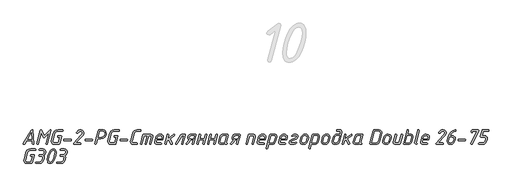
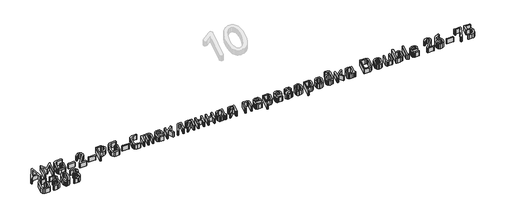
# One storey, part 9 of 22: 1 proxy.
"""IFC4 building model written with IfcOpenShell, lengths in millimetres."""

from ifc_helpers import new_model, si_unit, origin, origin_with_axes, place, context, project, spatial, polyline, outline, extrude, element, save

model = new_model("IFC4")

# Units and contexts
model_context = context("Model", 3, world=origin())
ifc_project = project(units=[si_unit("LENGTHUNIT", "METRE", prefix="MILLI")], contexts=[model_context])

# Site, building, storey
site = spatial("IfcSite", under=ifc_project)
building = spatial("IfcBuilding", under=site)
storey = spatial("IfcBuildingStorey", under=building, Name="Уровень 1", Elevation=0.0)

# Proxy
placement = place(None, origin())
element("IfcBuildingElementProxy", 1, Name="30", ObjectType="30", at=placement, inside=storey, context=model_context, shape_type="SweptSolid", body=[
    extrude(outline(polyline([(-27254.4219264, -51295.2113625), (-27310.5539274, -51295.2113625), (-27331.3287604, -51329.8494015), (-27337.7210168, -51333.5649005), (-27343.0345798, -51331.3276108), (-27345.1919664, -51326.0140477), (-27344.0733215, -51322.0188875), (-27261.4534084, -51186.2633437), (-27254.9812489, -51182.7076511), (-27249.6277342, -51184.4455458), (-27247.4703477, -51189.6592298), (-27237.0429795, -51326.2537573), (-27238.9406806, -51331.7371147), (-27244.6337839, -51333.5649005), (-27249.9573349, -51331.7970421), (-27252.0248303, -51326.493467), (-27254.4219264, -51295.2113625)]), holes=[polyline([(-27255.5405713, -51279.8699473), (-27260.6543764, -51213.3904815), (-27301.3251073, -51279.8699473), (-27255.5405713, -51279.8699473)])]), origin_with_axes(), (0.0, 0.0, 1.0), 50.0),
    extrude(outline(polyline([(-27159.3371135, -51213.3505299), (-27189.9000891, -51327.9716762), (-27192.4370158, -51332.1665945), (-27197.0913775, -51333.5649005), (-27202.3649889, -51331.3276108), (-27204.6821818, -51326.2537573), (-27204.362569, -51323.976516), (-27168.0865143, -51188.3008754), (-27165.5595755, -51184.1059572), (-27160.9351776, -51182.7076511), (-27153.9036956, -51187.2621337), (-27129.8128796, -51244.5527311), (-27073.0816046, -51185.1047472), (-27067.7680415, -51182.7076511), (-27062.1348656, -51184.5654006), (-27060.2571403, -51190.1386491), (-27060.49685, -51192.2960356), (-27096.732953, -51327.9716762), (-27099.3198193, -51332.1665945), (-27103.8842898, -51333.5649005), (-27109.1778771, -51331.3276108), (-27111.5150458, -51326.2537573), (-27111.1554814, -51323.976516), (-27082.5101827, -51216.6665129), (-27127.0961706, -51263.1701777), (-27132.4097337, -51265.4074674), (-27139.2414576, -51260.8929364), (-27159.3371135, -51213.3505299)])), origin_with_axes(), (0.0, 0.0, 1.0), 50.0),
    extrude(outline(polyline([(-26942.6795754, -51198.0490663), (-26991.3406268, -51198.0490663), (-27004.0052846, -51200.8356905), (-27014.512556, -51209.1955633), (-27020.5452479, -51220.5817699), (-27040.7607585, -51295.6907818), (-27041.5597906, -51301.2840061), (-27036.3860581, -51313.5491479), (-27023.5016664, -51318.2234853), (-26984.6287576, -51318.2234853), (-26968.4883104, -51259.4147271), (-26982.2316615, -51259.4147271), (-26987.8648374, -51257.4970502), (-26989.7425627, -51251.7440195), (-26987.8648374, -51245.9909888), (-26982.2316615, -51244.0733119), (-26956.782491, -51244.0733119), (-26952.3478631, -51245.4316663), (-26950.8696539, -51249.5067298), (-26950.9895087, -51251.5442615), (-26971.1251161, -51326.0939509), (-26974.6108934, -51331.6971631), (-26980.9931618, -51333.5649005), (-27027.5767298, -51333.5649005), (-27041.7995002, -51329.4199218), (-27052.8261424, -51316.9849857), (-27057.0210606, -51302.1229897), (-27056.2220285, -51295.8505882), (-27036.1263727, -51220.4219634), (-27026.1784238, -51199.6471304), (-27009.5186057, -51186.9425209), (-26987.2256117, -51182.7076511), (-26942.6795754, -51182.7076511), (-26937.0763632, -51184.625328), (-26935.2086258, -51190.3783587), (-26937.0763632, -51196.1313894), (-26942.6795754, -51198.0490663)])), origin_with_axes(), (0.0, 0.0, 1.0), 50.0),
    extrude(outline(polyline([(-26858.9809691, -51295.2113625), (-26921.0657587, -51295.2113625), (-26926.6689709, -51293.2936856), (-26928.5367083, -51287.5406549), (-26926.6689709, -51281.7876242), (-26921.0657587, -51279.8699473), (-26858.9809691, -51279.8699473), (-26853.3777569, -51281.7876242), (-26851.5100195, -51287.5406549), (-26853.3777569, -51293.2936856), (-26858.9809691, -51295.2113625)])), origin_with_axes(), (0.0, 0.0, 1.0), 50.0),
    extrude(outline(polyline([(-26784.9106988, -51217.8251093), (-26790.4639715, -51220.5418183), (-26795.7575588, -51218.2645769), (-26797.9748727, -51213.0309171), (-26796.137099, -51208.1568216), (-26776.8404752, -51189.5793266), (-26764.8749704, -51184.42557), (-26751.2714499, -51182.7076511), (-26736.3295507, -51186.3532348), (-26725.4627149, -51197.2899858), (-26721.2677967, -51212.4715946), (-26724.6936466, -51227.7430945), (-26734.9711962, -51242.7149574), (-26803.5281454, -51318.2234853), (-26758.5426415, -51318.2234853), (-26752.9094656, -51320.1411622), (-26751.0317403, -51325.8941929), (-26752.9094656, -51331.6472236), (-26758.5426415, -51333.5649005), (-26820.5874795, -51333.5649005), (-26826.1906917, -51331.6871752), (-26828.0584291, -51326.0539993), (-26826.1407522, -51320.9002427), (-26745.7980804, -51232.4873473), (-26738.906429, -51222.5693621), (-26736.6092119, -51213.1108203), (-26741.2935373, -51201.8145048), (-26755.3465133, -51198.0490663), (-26764.8050551, -51200.6359325), (-26775.9215884, -51208.3965312), (-26784.9106988, -51217.8251093)])), origin_with_axes(), (0.0, 0.0, 1.0), 50.0),
    extrude(outline(polyline([(-26639.0873512, -51295.2113625), (-26701.1721409, -51295.2113625), (-26706.7753531, -51293.2936856), (-26708.6430905, -51287.5406549), (-26706.7753531, -51281.7876242), (-26701.1721409, -51279.8699473), (-26639.0873512, -51279.8699473), (-26633.4841391, -51281.7876242), (-26631.6164017, -51287.5406549), (-26633.4841391, -51293.2936856), (-26639.0873512, -51295.2113625)])), origin_with_axes(), (0.0, 0.0, 1.0), 50.0),
    extrude(outline(polyline([(-26548.4771177, -51274.7561423), (-26579.5195126, -51274.7561423), (-26594.1417989, -51328.091531), (-26596.738653, -51332.1965582), (-26601.3330873, -51333.5649005), (-26606.6066988, -51331.3276108), (-26608.9238917, -51326.2537573), (-26608.6042789, -51323.976516), (-26572.9274982, -51190.2585039), (-26569.4716846, -51184.5953643), (-26563.0195009, -51182.7076511), (-26524.1465921, -51182.7076511), (-26507.0173427, -51187.731565), (-26493.8233261, -51202.8033069), (-26488.8293758, -51221.1810439), (-26489.7083111, -51228.7318967), (-26501.7437312, -51253.3620594), (-26522.1090604, -51269.162918), (-26548.4771177, -51274.7561423)]), holes=[polyline([(-26544.4020543, -51259.4147271), (-26527.9519822, -51255.5194459), (-26513.5993691, -51243.8336023), (-26506.6178267, -51232.7769964), (-26504.2906458, -51221.1810439), (-26507.2370765, -51209.3653576), (-26516.0763685, -51201.085388), (-26528.3814619, -51198.0490663), (-26559.3839051, -51198.0490663), (-26575.5243523, -51259.4147271), (-26544.4020543, -51259.4147271)])]), origin_with_axes(), (0.0, 0.0, 1.0), 50.0),
    extrude(outline(polyline([(-26362.2627005, -51198.0490663), (-26410.9237518, -51198.0490663), (-26423.5884096, -51200.8356905), (-26434.095681, -51209.1955633), (-26440.1283729, -51220.5817699), (-26460.3438836, -51295.6907818), (-26461.1429156, -51301.2840061), (-26455.9691831, -51313.5491479), (-26443.0847915, -51318.2234853), (-26404.2118826, -51318.2234853), (-26388.0714354, -51259.4147271), (-26401.8147865, -51259.4147271), (-26407.4479624, -51257.4970502), (-26409.3256877, -51251.7440195), (-26407.4479624, -51245.9909888), (-26401.8147865, -51244.0733119), (-26376.365616, -51244.0733119), (-26371.9309882, -51245.4316663), (-26370.4527789, -51249.5067298), (-26370.5726337, -51251.5442615), (-26390.7082411, -51326.0939509), (-26394.1940184, -51331.6971631), (-26400.5762868, -51333.5649005), (-26447.1598549, -51333.5649005), (-26461.3826252, -51329.4199218), (-26472.4092674, -51316.9849857), (-26476.6041856, -51302.1229897), (-26475.8051536, -51295.8505882), (-26455.7094977, -51220.4219634), (-26445.7615488, -51199.6471304), (-26429.1017307, -51186.9425209), (-26406.8087368, -51182.7076511), (-26362.2627005, -51182.7076511), (-26356.6594883, -51184.625328), (-26354.7917509, -51190.3783587), (-26356.6594883, -51196.1313894), (-26362.2627005, -51198.0490663)])), origin_with_axes(), (0.0, 0.0, 1.0), 50.0),
    extrude(outline(polyline([(-26278.5640941, -51295.2113625), (-26340.6488837, -51295.2113625), (-26346.2520959, -51293.2936856), (-26348.1198333, -51287.5406549), (-26346.2520959, -51281.7876242), (-26340.6488837, -51279.8699473), (-26278.5640941, -51279.8699473), (-26272.9608819, -51281.7876242), (-26271.0931445, -51287.5406549), (-26272.9608819, -51293.2936856), (-26278.5640941, -51295.2113625)])), origin_with_axes(), (0.0, 0.0, 1.0), 50.0),
    extrude(outline(polyline([(-26114.0433968, -51234.4050242), (-26111.4864942, -51230.1501786), (-26106.7722052, -51228.7318967), (-26034.8193698, -51228.7318967), (-26022.5941796, -51231.7382547), (-26014.12444, -51240.7573289), (-26011.0881182, -51252.6629063), (-26011.8871502, -51258.6955982), (-26030.5045968, -51328.0116278), (-26033.091463, -51332.1765824), (-26037.6559336, -51333.5649005), (-26042.9495209, -51331.3675624), (-26045.2866896, -51326.3336606), (-26044.9271252, -51324.0564192), (-26027.4283234, -51258.9752595), (-26026.6292914, -51253.4619384), (-26029.6756011, -51246.4204685), (-26038.81453, -51244.0733119), (-26054.3557032, -51244.0733119), (-26077.0881648, -51328.0116278), (-26079.6750311, -51332.1765824), (-26084.2395016, -51333.5649005), (-26089.5330889, -51331.3675624), (-26091.8702576, -51326.3336606), (-26091.5506448, -51324.0564192), (-26069.8169733, -51244.0733119), (-26100.9792229, -51244.0733119), (-26123.6717329, -51328.0116278), (-26126.268587, -51332.1765824), (-26130.8630212, -51333.5649005), (-26136.1366327, -51331.3475866), (-26138.4538256, -51326.293709), (-26138.1342128, -51324.0164676), (-26114.0433968, -51234.4050242)])), origin_with_axes(), (0.0, 0.0, 1.0), 50.0),
    extrude(outline(polyline([(-26178.7649921, -51318.2234853), (-26173.1318162, -51320.1411622), (-26171.2540909, -51325.8941929), (-26173.1318162, -51331.6472236), (-26178.7649921, -51333.5649005), (-26211.804967, -51333.5649005), (-26226.1575801, -51329.3899581), (-26237.1742344, -51316.8651309), (-26241.2492978, -51301.9232317), (-26240.4502657, -51295.8505882), (-26220.4744647, -51220.4219634), (-26213.6527286, -51203.9219518), (-26203.2153726, -51192.1362292), (-26189.1623966, -51185.0647956), (-26171.4938005, -51182.7076511), (-26142.6087922, -51182.7076511), (-26136.9756163, -51184.625328), (-26135.097891, -51190.3783587), (-26136.9756163, -51196.1313894), (-26142.6087922, -51198.0490663), (-26175.568864, -51198.0490663), (-26188.113667, -51200.8356905), (-26198.7407932, -51209.1955633), (-26204.8933399, -51220.5817699), (-26224.9889957, -51295.6907818), (-26225.7880278, -51301.2840061), (-26220.6142953, -51313.5491479), (-26207.7299036, -51318.2234853), (-26178.7649921, -51318.2234853)])), origin_with_axes(), (0.0, 0.0, 1.0), 50.0),
    extrude(outline(polyline([(-25904.2974858, -51265.4873706), (-25910.3301778, -51287.5406549), (-25972.3750158, -51287.5406549), (-25976.370176, -51302.8820701), (-25977.169208, -51308.4752944), (-25974.1228984, -51315.7864376), (-25964.9839694, -51318.2234853), (-25928.1885439, -51318.2234853), (-25922.555368, -51320.1411622), (-25920.6776427, -51325.8941929), (-25922.555368, -51331.6472236), (-25928.1885439, -51333.5649005), (-25968.9791296, -51333.5649005), (-25978.0381554, -51331.80703), (-25985.7188509, -51326.5334186), (-25990.9624987, -51318.8227594), (-25992.7103812, -51309.7537457), (-25991.9113492, -51303.601199), (-25981.9234487, -51266.1665478), (-25975.066755, -51248.9274315), (-25965.2037032, -51237.4013943), (-25951.4553582, -51230.8992711), (-25932.9427845, -51228.7318967), (-25921.4217413, -51230.804386), (-25911.8683144, -51237.0218541), (-25905.4411005, -51246.2756439), (-25903.2986958, -51257.4570986), (-25904.2974858, -51265.4873706)]), holes=[polyline([(-25919.8786107, -51265.1677578), (-25918.640111, -51257.3771954), (-25923.2345452, -51247.3992827), (-25937.0178479, -51244.0733119), (-25955.9549073, -51249.3469234), (-25962.217321, -51255.9389377), (-25966.3423239, -51265.1677578), (-25968.4198072, -51272.1992397), (-25921.7962876, -51272.1992397), (-25919.8786107, -51265.1677578)])]), origin_with_axes(), (0.0, 0.0, 1.0), 50.0),
    extrude(outline(polyline([(-25845.7284372, -51285.2634136), (-25865.824093, -51300.7246836), (-25873.0952846, -51328.0116278), (-25875.6322114, -51332.1765824), (-25880.286573, -51333.5649005), (-25885.5601845, -51331.3475866), (-25887.8773774, -51326.293709), (-25887.5577646, -51324.0164676), (-25863.4669485, -51234.2851694), (-25860.9400097, -51230.1202149), (-25856.3156118, -51228.7318967), (-25850.6824359, -51230.5796583), (-25848.8047106, -51236.1229431), (-25849.0044686, -51238.2803296), (-25859.3519335, -51276.9534804), (-25798.66545, -51231.2887992), (-25794.1509189, -51228.7318967), (-25788.8972832, -51231.009138), (-25786.5201629, -51236.1229431), (-25789.5964363, -51242.2355382), (-25833.5831502, -51275.9147387), (-25811.410011, -51322.777968), (-25810.610979, -51325.9740961), (-25812.8882203, -51331.2876592), (-25818.241735, -51333.5649005), (-25824.9136525, -51329.2501275), (-25845.7284372, -51285.2634136)])), origin_with_axes(), (0.0, 0.0, 1.0), 50.0),
    extrude(outline(polyline([(-25683.9644004, -51228.7318967), (-25678.3312245, -51230.5796583), (-25676.4534992, -51236.1229431), (-25676.6932088, -51238.2803296), (-25700.9038797, -51328.0116278), (-25703.4907459, -51332.1765824), (-25708.0552164, -51333.5649005), (-25713.3488037, -51331.3675624), (-25715.6859724, -51326.3336606), (-25715.326408, -51324.0564192), (-25693.7525429, -51244.0733119), (-25710.7719254, -51244.0733119), (-25763.8676045, -51330.0491595), (-25769.7404901, -51333.5649005), (-25775.673303, -51331.7770663), (-25777.7308105, -51326.4135638), (-25776.572214, -51322.2186455), (-25721.4789547, -51232.3674925), (-25714.9668436, -51228.7318967), (-25683.9644004, -51228.7318967)])), origin_with_axes(), (0.0, 0.0, 1.0), 50.0),
    extrude(outline(polyline([(-25614.129, -51287.5406549), (-25655.0394405, -51331.2477076), (-25660.3929552, -51333.5649005), (-25665.9861795, -51331.707151), (-25667.9837596, -51326.1339025), (-25665.8263731, -51320.5406783), (-25634.0248978, -51286.5019133), (-25646.2301122, -51278.0321736), (-25650.8445223, -51264.1290161), (-25650.165345, -51258.1362758), (-25644.6220602, -51244.4977976), (-25636.8614615, -51235.4637416), (-25625.97465, -51230.4148579), (-25611.0527266, -51228.7318967), (-25574.2573011, -51228.7318967), (-25568.9637138, -51230.8892832), (-25566.6265451, -51236.0030883), (-25566.9861095, -51238.2803296), (-25591.1568288, -51328.0116278), (-25593.7536829, -51332.1765824), (-25598.3481171, -51333.5649005), (-25603.9513293, -51331.6771873), (-25605.8190667, -51326.0140477), (-25605.6193087, -51323.8167096), (-25596.0708758, -51287.5406549), (-25614.129, -51287.5406549)]), holes=[polyline([(-25623.1181104, -51272.1992397), (-25592.0757156, -51272.1992397), (-25583.8856372, -51244.0733119), (-25615.0478868, -51244.0733119), (-25627.5427504, -51247.5890529), (-25634.8239298, -51258.1362758), (-25635.5031071, -51263.2500809), (-25632.4068579, -51269.96195), (-25623.1181104, -51272.1992397)])]), origin_with_axes(), (0.0, 0.0, 1.0), 50.0),
    extrude(outline(polyline([(-25486.1240669, -51287.5406549), (-25532.7076349, -51287.5406549), (-25543.2548579, -51327.8518214), (-25545.8217483, -51332.1366308), (-25550.5660011, -51333.5649005), (-25555.8196367, -51331.3475866), (-25558.1568055, -51326.293709), (-25557.8371926, -51324.0164676), (-25533.7463766, -51234.2851694), (-25531.2094499, -51230.1202149), (-25526.5550882, -51228.7318967), (-25521.2415251, -51230.80938), (-25518.9642838, -51235.8832335), (-25519.1640418, -51237.9607168), (-25528.7124747, -51272.1992397), (-25482.0090519, -51272.1992397), (-25471.4618289, -51234.125363), (-25468.9348901, -51230.0802632), (-25464.3104922, -51228.7318967), (-25458.6773163, -51230.5796583), (-25456.799591, -51236.1229431), (-25457.0393006, -51238.2803296), (-25481.1301167, -51328.0116278), (-25483.6570555, -51332.1765824), (-25488.2814534, -51333.5649005), (-25493.5550649, -51331.307635), (-25495.8722578, -51326.1339025), (-25495.552645, -51323.8167096), (-25486.1240669, -51287.5406549)])), origin_with_axes(), (0.0, 0.0, 1.0), 50.0),
    extrude(outline(polyline([(-25376.177258, -51287.5406549), (-25422.760826, -51287.5406549), (-25433.308049, -51327.8518214), (-25435.8749394, -51332.1366308), (-25440.6191921, -51333.5649005), (-25445.8728278, -51331.3475866), (-25448.2099965, -51326.293709), (-25447.8903837, -51324.0164676), (-25423.7995677, -51234.2851694), (-25421.2626409, -51230.1202149), (-25416.6082793, -51228.7318967), (-25411.2947162, -51230.80938), (-25409.0174749, -51235.8832335), (-25409.2172329, -51237.9607168), (-25418.7656658, -51272.1992397), (-25372.062243, -51272.1992397), (-25361.51502, -51234.125363), (-25358.9880812, -51230.0802632), (-25354.3636833, -51228.7318967), (-25348.7305074, -51230.5796583), (-25346.8527821, -51236.1229431), (-25347.0924917, -51238.2803296), (-25371.1833077, -51328.0116278), (-25373.7102466, -51332.1765824), (-25378.3346445, -51333.5649005), (-25383.608256, -51331.307635), (-25385.9254489, -51326.1339025), (-25385.6058361, -51323.8167096), (-25376.177258, -51287.5406549)])), origin_with_axes(), (0.0, 0.0, 1.0), 50.0),
    extrude(outline(polyline([(-25309.2982761, -51333.5649005), (-25318.3573019, -51331.8369937), (-25326.0379974, -51326.6532734), (-25331.2816452, -51319.0225174), (-25333.0295278, -51309.9535037), (-25332.2304957, -51303.601199), (-25320.2050635, -51258.6955982), (-25314.6418029, -51244.7924407), (-25306.5815672, -51235.523669), (-25295.7147314, -51230.4298398), (-25281.0924451, -51228.7318967), (-25242.2594878, -51228.7318967), (-25237.3654166, -51230.8693074), (-25236.4265539, -51236.2028463), (-25256.6820162, -51310.7525357), (-25257.001629, -51312.7900674), (-25255.5034439, -51316.8651309), (-25251.0088887, -51318.2234853), (-25245.8051925, -51320.1411622), (-25245.2159064, -51325.8941929), (-25248.5518652, -51331.6472236), (-25254.9640973, -51333.5649005), (-25265.0219131, -51331.3875382), (-25270.4253673, -51324.8554513), (-25279.5742842, -51331.3875382), (-25293.8370061, -51333.5649005), (-25309.2982761, -51333.5649005)]), holes=[polyline([(-25305.3031159, -51318.2234853), (-25289.7619427, -51318.2234853), (-25277.7564863, -51313.6690027), (-25270.0658029, -51303.401441), (-25254.0452104, -51244.0733119), (-25285.0876053, -51244.0733119), (-25297.8321663, -51247.778823), (-25304.7437935, -51258.8953562), (-25316.6893225, -51303.401441), (-25317.4883545, -51308.6750524), (-25314.4420449, -51315.8363771), (-25305.3031159, -51318.2234853)])]), origin_with_axes(), (0.0, 0.0, 1.0), 50.0),
    extrude(outline(polyline([(-25159.0003491, -51287.5406549), (-25199.9107896, -51331.2477076), (-25205.2643043, -51333.5649005), (-25210.8575286, -51331.707151), (-25212.8551087, -51326.1339025), (-25210.6977222, -51320.5406783), (-25178.8962469, -51286.5019133), (-25191.1014614, -51278.0321736), (-25195.7158714, -51264.1290161), (-25195.0366942, -51258.1362758), (-25189.4934094, -51244.4977976), (-25181.7328107, -51235.4637416), (-25170.8459991, -51230.4148579), (-25155.9240757, -51228.7318967), (-25119.1286502, -51228.7318967), (-25113.835063, -51230.8892832), (-25111.4978942, -51236.0030883), (-25111.8574587, -51238.2803296), (-25136.0281779, -51328.0116278), (-25138.625032, -51332.1765824), (-25143.2194663, -51333.5649005), (-25148.8226785, -51331.6771873), (-25150.6904159, -51326.0140477), (-25150.4906579, -51323.8167096), (-25140.942225, -51287.5406549), (-25159.0003491, -51287.5406549)]), holes=[polyline([(-25167.9894596, -51272.1992397), (-25136.9470648, -51272.1992397), (-25128.7569863, -51244.0733119), (-25159.919236, -51244.0733119), (-25172.4140995, -51247.5890529), (-25179.695279, -51258.1362758), (-25180.3744562, -51263.2500809), (-25177.2782071, -51269.96195), (-25167.9894596, -51272.1992397)])]), origin_with_axes(), (0.0, 0.0, 1.0), 50.0),
    extrude(outline(polyline([(-25027.3598203, -51234.4050242), (-25024.8029177, -51230.1501786), (-25020.0886287, -51228.7318967), (-24979.1781882, -51228.7318967), (-24969.8145314, -51230.4198519), (-24962.1787815, -51235.4837174), (-24957.0999341, -51243.1244613), (-24955.4069849, -51252.5430515), (-24956.206017, -51258.6955982), (-24974.8634151, -51328.0116278), (-24977.4303056, -51332.1765824), (-24982.0147519, -51333.5649005), (-24987.2883634, -51331.3675624), (-24989.6055563, -51326.3336606), (-24989.2859435, -51324.0564192), (-24971.7871418, -51258.9752595), (-24970.9881097, -51253.5817932), (-24974.0244315, -51246.4504322), (-24983.1333968, -51244.0733119), (-25014.2956464, -51244.0733119), (-25036.9881564, -51328.0116278), (-25039.5850105, -51332.1765824), (-25044.1794447, -51333.5649005), (-25049.4530562, -51331.3475866), (-25051.7702491, -51326.293709), (-25051.4506363, -51324.0164676), (-25027.3598203, -51234.4050242)])), origin_with_axes(), (0.0, 0.0, 1.0), 50.0),
    extrude(outline(polyline([(-24848.2967398, -51265.4873706), (-24854.3294317, -51287.5406549), (-24916.3742697, -51287.5406549), (-24920.3694299, -51302.8820701), (-24921.1684619, -51308.4752944), (-24918.1221523, -51315.7864376), (-24908.9832233, -51318.2234853), (-24872.1877978, -51318.2234853), (-24866.5546219, -51320.1411622), (-24864.6768966, -51325.8941929), (-24866.5546219, -51331.6472236), (-24872.1877978, -51333.5649005), (-24912.9783835, -51333.5649005), (-24922.0374093, -51331.80703), (-24929.7181048, -51326.5334186), (-24934.9617526, -51318.8227594), (-24936.7096351, -51309.7537457), (-24935.9106031, -51303.601199), (-24925.9227026, -51266.1665478), (-24919.0660089, -51248.9274315), (-24909.2029571, -51237.4013943), (-24895.4546121, -51230.8992711), (-24876.9420384, -51228.7318967), (-24865.4209952, -51230.804386), (-24855.8675683, -51237.0218541), (-24849.4403544, -51246.2756439), (-24847.2979497, -51257.4570986), (-24848.2967398, -51265.4873706)]), holes=[polyline([(-24863.8778646, -51265.1677578), (-24862.6393649, -51257.3771954), (-24867.2337991, -51247.3992827), (-24881.0171019, -51244.0733119), (-24899.9541612, -51249.3469234), (-24906.2165749, -51255.9389377), (-24910.3415778, -51265.1677578), (-24912.4190611, -51272.1992397), (-24865.7955415, -51272.1992397), (-24863.8778646, -51265.1677578)])]), origin_with_axes(), (0.0, 0.0, 1.0), 50.0),
    extrude(outline(polyline([(-24807.4662024, -51234.4449758), (-24804.9092999, -51230.1601665), (-24800.1950109, -51228.7318967), (-24759.2845703, -51228.7318967), (-24750.1206716, -51230.4747853), (-24742.44497, -51235.7034512), (-24737.2462678, -51243.3991286), (-24735.5133671, -51252.5430515), (-24736.3123991, -51258.6955982), (-24748.377783, -51303.601199), (-24753.9260617, -51317.4344412), (-24761.9413519, -51326.6532734), (-24772.972988, -51331.8369937), (-24787.5703046, -51333.5649005), (-24818.5727478, -51333.5649005), (-24829.1599224, -51373.876067), (-24831.6868612, -51378.1608763), (-24836.3112591, -51379.5891461), (-24841.6048464, -51377.3518564), (-24843.9420151, -51372.2780029), (-24843.5824507, -51370.0007616), (-24807.4662024, -51234.4449758)]), holes=[polyline([(-24794.4020286, -51244.0733119), (-24814.6175392, -51318.2234853), (-24783.4952412, -51318.2234853), (-24770.7207164, -51314.5179742), (-24763.7991014, -51303.401441), (-24751.8935239, -51258.8953562), (-24751.0944919, -51253.50189), (-24754.1308137, -51246.4304564), (-24763.2397789, -51244.0733119), (-24794.4020286, -51244.0733119)])]), origin_with_axes(), (0.0, 0.0, 1.0), 50.0),
    extrude(outline(polyline([(-24628.4031219, -51265.4873706), (-24634.4358138, -51287.5406549), (-24696.4806519, -51287.5406549), (-24700.4758121, -51302.8820701), (-24701.2748441, -51308.4752944), (-24698.2285345, -51315.7864376), (-24689.0896055, -51318.2234853), (-24652.29418, -51318.2234853), (-24646.6610041, -51320.1411622), (-24644.7832788, -51325.8941929), (-24646.6610041, -51331.6472236), (-24652.29418, -51333.5649005), (-24693.0847657, -51333.5649005), (-24702.1437915, -51331.80703), (-24709.824487, -51326.5334186), (-24715.0681347, -51318.8227594), (-24716.8160173, -51309.7537457), (-24716.0169853, -51303.601199), (-24706.0290848, -51266.1665478), (-24699.1723911, -51248.9274315), (-24689.3093393, -51237.4013943), (-24675.5609942, -51230.8992711), (-24657.0484206, -51228.7318967), (-24645.5273774, -51230.804386), (-24635.9739505, -51237.0218541), (-24629.5467365, -51246.2756439), (-24627.4043319, -51257.4570986), (-24628.4031219, -51265.4873706)]), holes=[polyline([(-24643.9842467, -51265.1677578), (-24642.7457471, -51257.3771954), (-24647.3401813, -51247.3992827), (-24661.123484, -51244.0733119), (-24680.0605434, -51249.3469234), (-24686.322957, -51255.9389377), (-24690.4479599, -51265.1677578), (-24692.5254433, -51272.1992397), (-24645.9019236, -51272.1992397), (-24643.9842467, -51265.1677578)])]), origin_with_axes(), (0.0, 0.0, 1.0), 50.0),
    extrude(outline(polyline([(-24555.8510125, -51330.6484336), (-24586.9733106, -51333.5649005), (-24594.9037036, -51331.9668364), (-24601.5955969, -51327.1726442), (-24606.1500796, -51320.261017), (-24607.6682404, -51312.3106482), (-24605.9702974, -51303.1517434), (-24600.8764681, -51294.3723789), (-24585.2953433, -51282.7065111), (-24539.9502749, -51264.9679998), (-24532.6990591, -51259.7742915), (-24530.2819872, -51251.6241647), (-24532.5891922, -51245.9610251), (-24539.5108073, -51244.0733119), (-24557.4191129, -51245.6913518), (-24570.9527181, -51250.5454714), (-24574.5883139, -51251.5842131), (-24579.8819012, -51249.3069717), (-24582.0992151, -51244.0733119), (-24578.3437645, -51237.4413459), (-24560.3056162, -51230.909259), (-24535.5156471, -51228.7318967), (-24525.4078918, -51231.4985451), (-24517.7771358, -51239.7984905), (-24514.8207172, -51250.3057618), (-24517.2677528, -51260.823021), (-24524.6088597, -51271.1205465), (-24536.9938564, -51279.3505765), (-24582.3389247, -51296.969233), (-24589.6500679, -51302.2528324), (-24592.0871156, -51310.4329229), (-24589.8198622, -51316.2758447), (-24583.018102, -51318.2234853), (-24561.424261, -51316.4855906), (-24541.8679518, -51311.2719066), (-24539.1512429, -51310.7125841), (-24533.518067, -51312.5903094), (-24531.6403417, -51318.2234853), (-24534.0873773, -51323.477121), (-24541.4284842, -51327.4123538), (-24555.8510125, -51330.6484336)])), origin_with_axes(), (0.0, 0.0, 1.0), 50.0),
    extrude(outline(polyline([(-24494.0858357, -51296.1302494), (-24486.1354669, -51266.1665478), (-24479.2787732, -51248.9274315), (-24469.4157215, -51237.4013943), (-24455.6673764, -51230.8992711), (-24437.1548028, -51228.7318967), (-24425.6337595, -51230.8443376), (-24416.0803327, -51237.1816605), (-24409.6531187, -51246.6152326), (-24407.510714, -51258.016421), (-24408.5095041, -51266.1665478), (-24416.4598729, -51296.1302494), (-24426.3678702, -51317.6641629), (-24441.9889466, -51329.5897161), (-24465.440537, -51333.5649005), (-24476.9665742, -51331.4524596), (-24486.5349829, -51325.1151367), (-24492.9771788, -51315.6815646), (-24495.1245774, -51304.2803762), (-24494.0858357, -51296.1302494)]), holes=[polyline([(-24432.0409977, -51295.970443), (-24424.0906289, -51266.3263542), (-24422.8521292, -51258.016421), (-24427.4465635, -51247.5590892), (-24441.2298662, -51244.0733119), (-24451.8120468, -51245.464127), (-24460.226853, -51249.6365725), (-24466.4742848, -51256.5906482), (-24470.5543421, -51266.3263542), (-24478.6245657, -51295.970443), (-24479.903017, -51304.2803762), (-24475.2985949, -51314.737708), (-24461.4853284, -51318.2234853), (-24450.8656932, -51316.8326702), (-24442.4184264, -51312.6602247), (-24436.1435279, -51305.706149), (-24432.0409977, -51295.970443)])]), origin_with_axes(), (0.0, 0.0, 1.0), 50.0),
    extrude(outline(polyline([(-24367.6789668, -51234.4449758), (-24365.1220642, -51230.1601665), (-24360.4077752, -51228.7318967), (-24319.4973347, -51228.7318967), (-24310.3334359, -51230.4747853), (-24302.6577344, -51235.7034512), (-24297.4590322, -51243.3991286), (-24295.7261314, -51252.5430515), (-24296.5251635, -51258.6955982), (-24308.5905473, -51303.601199), (-24314.138826, -51317.4344412), (-24322.1541162, -51326.6532734), (-24333.1857523, -51331.8369937), (-24347.7830689, -51333.5649005), (-24378.7855121, -51333.5649005), (-24389.3726867, -51373.876067), (-24391.8996255, -51378.1608763), (-24396.5240235, -51379.5891461), (-24401.8176107, -51377.3518564), (-24404.1547795, -51372.2780029), (-24403.795215, -51370.0007616), (-24367.6789668, -51234.4449758)]), holes=[polyline([(-24354.6147929, -51244.0733119), (-24374.8303035, -51318.2234853), (-24343.7080055, -51318.2234853), (-24330.9334808, -51314.5179742), (-24324.0118657, -51303.401441), (-24312.1062883, -51258.8953562), (-24311.3072562, -51253.50189), (-24314.343578, -51246.4304564), (-24323.4525433, -51244.0733119), (-24354.6147929, -51244.0733119)])]), origin_with_axes(), (0.0, 0.0, 1.0), 50.0),
    extrude(outline(polyline([(-24274.1922179, -51296.1302494), (-24266.2418491, -51266.1665478), (-24259.3851554, -51248.9274315), (-24249.5221036, -51237.4013943), (-24235.7737586, -51230.8992711), (-24217.2611849, -51228.7318967), (-24205.7401417, -51230.8443376), (-24196.1867149, -51237.1816605), (-24189.7595009, -51246.6152326), (-24187.6170962, -51258.016421), (-24188.6158863, -51266.1665478), (-24196.5662551, -51296.1302494), (-24206.4742524, -51317.6641629), (-24222.0953288, -51329.5897161), (-24245.5469192, -51333.5649005), (-24257.0729564, -51331.4524596), (-24266.6413651, -51325.1151367), (-24273.0835609, -51315.6815646), (-24275.2309596, -51304.2803762), (-24274.1922179, -51296.1302494)]), holes=[polyline([(-24212.1473799, -51295.970443), (-24204.1970111, -51266.3263542), (-24202.9585114, -51258.016421), (-24207.5529456, -51247.5590892), (-24221.3362484, -51244.0733119), (-24231.918429, -51245.464127), (-24240.3332351, -51249.6365725), (-24246.5806669, -51256.5906482), (-24250.6607243, -51266.3263542), (-24258.7309479, -51295.970443), (-24260.0093992, -51304.2803762), (-24255.404977, -51314.737708), (-24241.5917106, -51318.2234853), (-24230.9720754, -51316.8326702), (-24222.5248085, -51312.6602247), (-24216.24991, -51305.706149), (-24212.1473799, -51295.970443)])]), origin_with_axes(), (0.0, 0.0, 1.0), 50.0),
    extrude(outline(polyline([(-24064.6061134, -51212.8711107), (-24086.6194462, -51295.8505882), (-24093.6059826, -51313.2744806), (-24103.6188528, -51324.8754271), (-24117.3771858, -51331.3925322), (-24135.6001103, -51333.5649005), (-24147.1261475, -51331.4524596), (-24156.6945562, -51325.1151367), (-24163.136752, -51315.6815646), (-24165.2841506, -51304.2803762), (-24164.245409, -51296.1302494), (-24156.2950402, -51266.1665478), (-24149.4383465, -51248.9274315), (-24139.5752947, -51237.4013943), (-24125.8269496, -51230.8992711), (-24107.314376, -51228.7318967), (-24084.022592, -51228.7318967), (-24080.0274318, -51213.3904815), (-24079.2683514, -51207.7972572), (-24082.3346368, -51200.486114), (-24091.5334932, -51198.0490663), (-24112.7877455, -51198.0490663), (-24118.3909577, -51196.1313894), (-24120.2586951, -51190.3783587), (-24118.3909577, -51184.625328), (-24112.7877455, -51182.7076511), (-24087.538333, -51182.7076511), (-24078.404398, -51184.4655216), (-24070.7386843, -51189.7391331), (-24065.5399821, -51197.4997318), (-24063.8070814, -51206.7185639), (-24064.6061134, -51212.8711107)]), holes=[polyline([(-24102.200571, -51295.970443), (-24088.0976554, -51244.0733119), (-24111.3894394, -51244.0733119), (-24121.97162, -51245.464127), (-24130.3864262, -51249.6365725), (-24136.633858, -51256.5906482), (-24140.7139154, -51266.3263542), (-24148.784139, -51295.970443), (-24150.0625903, -51304.2803762), (-24145.4581681, -51314.737708), (-24131.6449017, -51318.2234853), (-24121.0252665, -51316.8326702), (-24112.5779996, -51312.6602247), (-24106.3031011, -51305.706149), (-24102.200571, -51295.970443)])]), origin_with_axes(), (0.0, 0.0, 1.0), 50.0),
    extrude(outline(polyline([(-24020.1000287, -51285.2634136), (-24040.1956845, -51300.7246836), (-24047.4668761, -51328.0116278), (-24050.0038029, -51332.1765824), (-24054.6581645, -51333.5649005), (-24059.931776, -51331.3475866), (-24062.2489689, -51326.293709), (-24061.9293561, -51324.0164676), (-24037.83854, -51234.2851694), (-24035.3116012, -51230.1202149), (-24030.6872032, -51228.7318967), (-24025.0540274, -51230.5796583), (-24023.1763021, -51236.1229431), (-24023.3760601, -51238.2803296), (-24033.723525, -51276.9534804), (-23973.0370415, -51231.2887992), (-23968.5225104, -51228.7318967), (-23963.2688747, -51231.009138), (-23960.8917544, -51236.1229431), (-23963.9680278, -51242.2355382), (-24007.9547417, -51275.9147387), (-23985.7816025, -51322.777968), (-23984.9825705, -51325.9740961), (-23987.2598118, -51331.2876592), (-23992.6133265, -51333.5649005), (-23999.285244, -51329.2501275), (-24020.1000287, -51285.2634136)])), origin_with_axes(), (0.0, 0.0, 1.0), 50.0),
    extrude(outline(polyline([(-23923.4571033, -51333.5649005), (-23932.516129, -51331.8369937), (-23940.1968245, -51326.6532734), (-23945.4404723, -51319.0225174), (-23947.1883549, -51309.9535037), (-23946.3893229, -51303.601199), (-23934.3638906, -51258.6955982), (-23928.8006301, -51244.7924407), (-23920.7403943, -51235.523669), (-23909.8735586, -51230.4298398), (-23895.2512722, -51228.7318967), (-23856.418315, -51228.7318967), (-23851.5242437, -51230.8693074), (-23850.5853811, -51236.2028463), (-23870.8408433, -51310.7525357), (-23871.1604562, -51312.7900674), (-23869.6622711, -51316.8651309), (-23865.1677158, -51318.2234853), (-23859.9640197, -51320.1411622), (-23859.3747335, -51325.8941929), (-23862.7106923, -51331.6472236), (-23869.1229244, -51333.5649005), (-23879.1807403, -51331.3875382), (-23884.5841945, -51324.8554513), (-23893.7331113, -51331.3875382), (-23907.9958333, -51333.5649005), (-23923.4571033, -51333.5649005)]), holes=[polyline([(-23919.4619431, -51318.2234853), (-23903.9207699, -51318.2234853), (-23891.9153134, -51313.6690027), (-23884.22463, -51303.401441), (-23868.2040376, -51244.0733119), (-23899.2464324, -51244.0733119), (-23911.9909935, -51247.778823), (-23918.9026206, -51258.8953562), (-23930.8481497, -51303.401441), (-23931.6471817, -51308.6750524), (-23928.600872, -51315.8363771), (-23919.4619431, -51318.2234853)])]), origin_with_axes(), (0.0, 0.0, 1.0), 50.0),
    extrude(outline(polyline([(-23739.8794917, -51190.2585039), (-23736.4236782, -51184.5953643), (-23729.9714944, -51182.7076511), (-23683.3879264, -51182.7076511), (-23672.3762661, -51185.1946383), (-23662.7529239, -51192.6556), (-23656.0560366, -51203.0829681), (-23653.8237409, -51214.4691747), (-23654.6227729, -51220.4219634), (-23674.7583803, -51295.8505882), (-23681.6100801, -51312.3505998), (-23692.057424, -51324.1363224), (-23706.1004122, -51331.207756), (-23723.7390445, -51333.5649005), (-23770.3226125, -51333.5649005), (-23775.3165628, -51331.3276108), (-23776.1155948, -51326.0140477), (-23739.8794917, -51190.2585039)]), holes=[polyline([(-23726.3358986, -51198.0490663), (-23758.4969383, -51318.2234853), (-23719.7438843, -51318.2234853), (-23710.3502638, -51316.5854696), (-23701.5059779, -51311.6714226), (-23694.4195625, -51304.400231), (-23690.2995536, -51295.6907818), (-23670.2038977, -51220.5817699), (-23669.4048657, -51214.9885456), (-23674.5785981, -51202.7234037), (-23687.4629898, -51198.0490663), (-23726.3358986, -51198.0490663)])]), origin_with_axes(), (0.0, 0.0, 1.0), 50.0),
    extrude(outline(polyline([(-23642.6372923, -51296.1302494), (-23634.6869235, -51266.1665478), (-23627.8302298, -51248.9274315), (-23617.967178, -51237.4013943), (-23604.2188329, -51230.8992711), (-23585.7062593, -51228.7318967), (-23568.8566711, -51233.216464), (-23558.3394119, -51246.670166), (-23556.0621706, -51258.016421), (-23557.0609606, -51266.1665478), (-23565.0113294, -51296.1302494), (-23574.9193268, -51317.7141024), (-23590.5004516, -51329.8094499), (-23613.9919936, -51333.5649005), (-23625.5180308, -51331.4524596), (-23635.0864395, -51325.1151367), (-23641.5286353, -51315.6815646), (-23643.6760339, -51304.2803762), (-23642.6372923, -51296.1302494)]), holes=[polyline([(-23580.5924543, -51295.970443), (-23572.6420854, -51266.3263542), (-23571.4035858, -51258.016421), (-23575.99802, -51247.5590892), (-23589.7813227, -51244.0733119), (-23600.3635033, -51245.464127), (-23608.7783095, -51249.6365725), (-23615.0257413, -51256.5906482), (-23619.1057987, -51266.3263542), (-23627.1760223, -51295.970443), (-23628.4544735, -51304.2803762), (-23623.8500514, -51314.737708), (-23610.036785, -51318.2234853), (-23599.4171498, -51316.8326702), (-23590.9698829, -51312.6602247), (-23584.6949844, -51305.706149), (-23580.5924543, -51295.970443)])]), origin_with_axes(), (0.0, 0.0, 1.0), 50.0),
    extrude(outline(polyline([(-23454.0657305, -51234.2851694), (-23451.5387916, -51230.1202149), (-23446.9143937, -51228.7318967), (-23441.2812178, -51230.5796583), (-23439.4034925, -51236.1229431), (-23439.6432021, -51238.2803296), (-23463.3744538, -51326.0939509), (-23466.8402552, -51331.6971631), (-23473.1625963, -51333.5649005), (-23511.9156503, -51333.5649005), (-23520.9746761, -51331.80703), (-23528.6553716, -51326.5334186), (-23533.8990193, -51318.8227594), (-23535.6469019, -51309.7537457), (-23534.8478699, -51303.601199), (-23516.3502781, -51234.2851694), (-23513.7933756, -51230.1202149), (-23509.0790865, -51228.7318967), (-23503.4459106, -51230.5696704), (-23501.5681853, -51236.0829915), (-23501.7679434, -51238.240378), (-23519.3066967, -51303.3215378), (-23520.0657771, -51308.715004), (-23517.0294553, -51315.846365), (-23507.9204901, -51318.2234853), (-23476.7981921, -51318.2234853), (-23454.0657305, -51234.2851694)])), origin_with_axes(), (0.0, 0.0, 1.0), 50.0),
    extrude(outline(polyline([(-23423.1032389, -51333.5649005), (-23428.3568745, -51331.2876592), (-23430.5741885, -51326.0140477), (-23430.3744304, -51324.0963708), (-23394.0983758, -51188.3008754), (-23391.5714369, -51184.1059572), (-23386.947039, -51182.7076511), (-23381.3138631, -51184.5953643), (-23379.4361378, -51190.2585039), (-23379.6758474, -51192.455842), (-23389.1044255, -51228.7318967), (-23358.1019823, -51228.7318967), (-23348.9380836, -51230.4747853), (-23341.262382, -51235.7034512), (-23336.0636798, -51243.3991286), (-23334.330779, -51252.5430515), (-23335.1298111, -51258.6955982), (-23347.2750981, -51303.601199), (-23352.8483466, -51317.5592899), (-23360.6988364, -51326.7531524), (-23371.585648, -51331.8619635), (-23386.2678617, -51333.5649005), (-23423.1032389, -51333.5649005)]), holes=[polyline([(-23362.0571909, -51244.0733119), (-23393.2194405, -51244.0733119), (-23413.3150964, -51318.2234853), (-23382.1927983, -51318.2234853), (-23369.5680921, -51314.5179742), (-23362.6165133, -51303.401441), (-23350.5910811, -51258.8953562), (-23349.7920491, -51253.50189), (-23352.8583345, -51246.4304564), (-23362.0571909, -51244.0733119)])]), origin_with_axes(), (0.0, 0.0, 1.0), 50.0),
    extrude(outline(polyline([(-23297.6951599, -51318.4631949), (-23292.0619841, -51320.3509081), (-23290.1842588, -51326.0140477), (-23292.0619841, -51331.6771873), (-23297.6951599, -51333.5649005), (-23311.7181723, -51328.3711923), (-23316.1827638, -51322.5582342), (-23317.670961, -51315.5067764), (-23316.9917837, -51310.9522938), (-23284.2714216, -51188.3008754), (-23281.7145191, -51184.1059572), (-23277.0002301, -51182.7076511), (-23271.3670542, -51184.5654006), (-23269.4893289, -51190.1386491), (-23269.7290385, -51192.2960356), (-23301.4506105, -51310.9522938), (-23302.009933, -51314.3481799), (-23297.6951599, -51318.4631949)])), origin_with_axes(), (0.0, 0.0, 1.0), 50.0),
    extrude(outline(polyline([(-23165.8548731, -51265.4873706), (-23171.887565, -51287.5406549), (-23233.932403, -51287.5406549), (-23237.9275632, -51302.8820701), (-23238.7265953, -51308.4752944), (-23235.6802856, -51315.7864376), (-23226.5413566, -51318.2234853), (-23189.7459311, -51318.2234853), (-23184.1127552, -51320.1411622), (-23182.2350299, -51325.8941929), (-23184.1127552, -51331.6472236), (-23189.7459311, -51333.5649005), (-23230.5365169, -51333.5649005), (-23239.5955426, -51331.80703), (-23247.2762381, -51326.5334186), (-23252.5198859, -51318.8227594), (-23254.2677685, -51309.7537457), (-23253.4687364, -51303.601199), (-23243.4808359, -51266.1665478), (-23236.6241422, -51248.877492), (-23226.7610905, -51237.3614427), (-23213.0127454, -51230.8892832), (-23194.5001718, -51228.7318967), (-23177.6505836, -51233.1265729), (-23167.1333244, -51246.3106016), (-23164.856083, -51257.4570986), (-23165.8548731, -51265.4873706)]), holes=[polyline([(-23181.4359979, -51265.1677578), (-23180.1974982, -51257.3771954), (-23184.7919325, -51247.3992827), (-23198.5752352, -51244.0733119), (-23217.5122946, -51249.3469234), (-23223.7747082, -51255.9389377), (-23227.8997111, -51265.1677578), (-23229.9771944, -51272.1992397), (-23183.3536748, -51272.1992397), (-23181.4359979, -51265.1677578)])]), origin_with_axes(), (0.0, 0.0, 1.0), 50.0),
    extrude(outline(polyline([(-23054.3899033, -51217.8251093), (-23059.943176, -51220.5418183), (-23065.2367633, -51218.2645769), (-23067.4540772, -51213.0309171), (-23065.6163035, -51208.1568216), (-23046.3196797, -51189.5793266), (-23034.3541749, -51184.42557), (-23020.7506543, -51182.7076511), (-23005.8087552, -51186.3532348), (-22994.9419194, -51197.2899858), (-22990.7470012, -51212.4715946), (-22994.1728511, -51227.7430945), (-23004.4504007, -51242.7149574), (-23073.0073499, -51318.2234853), (-23028.0218459, -51318.2234853), (-23022.38867, -51320.1411622), (-23020.5109447, -51325.8941929), (-23022.38867, -51331.6472236), (-23028.0218459, -51333.5649005), (-23090.066684, -51333.5649005), (-23095.6698961, -51331.6871752), (-23097.5376335, -51326.0539993), (-23095.6199566, -51320.9002427), (-23015.2772849, -51232.4873473), (-23008.3856335, -51222.5693621), (-23006.0884164, -51213.1108203), (-23010.7727417, -51201.8145048), (-23024.8257178, -51198.0490663), (-23034.2842596, -51200.6359325), (-23045.4007928, -51208.3965312), (-23054.3899033, -51217.8251093)])), origin_with_axes(), (0.0, 0.0, 1.0), 50.0),
    extrude(outline(polyline([(-22951.8740924, -51333.5649005), (-22966.166778, -51329.4199218), (-22977.2433597, -51316.9849857), (-22981.3184231, -51302.0830381), (-22980.5193911, -51296.0103946), (-22968.4540072, -51250.4655682), (-22959.5248242, -51227.293639), (-22946.0811101, -51208.3565796), (-22925.705793, -51192.4358662), (-22900.0568645, -51182.7076511), (-22898.1391876, -51182.7076511), (-22892.5060117, -51184.625328), (-22890.6282864, -51190.3783587), (-22891.8767739, -51195.4322363), (-22895.6222366, -51197.5696471), (-22920.8716492, -51207.2379348), (-22939.5390352, -51223.5381884), (-22950.0762703, -51244.0733119), (-22927.6634215, -51244.0733119), (-22915.8377473, -51246.1058496), (-22906.2493628, -51252.2034629), (-22899.8970581, -51261.527168), (-22897.7796232, -51273.2379814), (-22898.8183648, -51281.3481566), (-22902.8934282, -51296.2900558), (-22912.8313892, -51317.6941266), (-22928.3425987, -51329.7295467), (-22951.8740924, -51333.5649005)]), holes=[polyline([(-22947.9188838, -51318.2234853), (-22937.3441941, -51316.8451551), (-22928.9119091, -51312.7101642), (-22922.6220287, -51305.8185129), (-22918.474553, -51296.170201), (-22914.3994896, -51281.4680114), (-22913.1210384, -51273.2379814), (-22917.7853879, -51262.8705407), (-22931.7784365, -51259.4147271), (-22955.0702205, -51259.4147271), (-22965.0581211, -51296.170201), (-22965.9770079, -51301.6435705), (-22960.8032754, -51313.6490269), (-22947.9188838, -51318.2234853)])]), origin_with_axes(), (0.0, 0.0, 1.0), 50.0),
    extrude(outline(polyline([(-22798.6197468, -51295.2113625), (-22860.7045364, -51295.2113625), (-22866.3077486, -51293.2936856), (-22868.175486, -51287.5406549), (-22866.3077486, -51281.7876242), (-22860.7045364, -51279.8699473), (-22798.6197468, -51279.8699473), (-22793.0165346, -51281.7876242), (-22791.1487972, -51287.5406549), (-22793.0165346, -51293.2936856), (-22798.6197468, -51295.2113625)])), origin_with_axes(), (0.0, 0.0, 1.0), 50.0),
    extrude(outline(polyline([(-22674.609974, -51198.5684371), (-22718.476833, -51198.5684371), (-22720.3945099, -51206.9582735), (-22723.600626, -51212.4516188), (-22729.3836204, -51213.4304331), (-22734.4075344, -51209.6949583), (-22734.9368931, -51203.202823), (-22732.2201841, -51191.0575359), (-22729.6033542, -51185.42436), (-22724.709283, -51183.5466347), (-22662.6644449, -51183.5466347), (-22657.031269, -51185.42436), (-22655.1535437, -51191.0575359), (-22655.832721, -51194.4534221), (-22723.1112189, -51329.4898371), (-22727.5458467, -51333.2053361), (-22733.538587, -51333.1254329), (-22736.9744248, -51328.3312407), (-22736.5349572, -51322.777968), (-22674.609974, -51198.5684371)])), origin_with_axes(), (0.0, 0.0, 1.0), 50.0),
    extrude(outline(polyline([(-22621.9138108, -51333.5649005), (-22650.9186739, -51333.5649005), (-22656.5218861, -51331.6472236), (-22658.3896235, -51325.8941929), (-22656.5218861, -51320.1411622), (-22650.9186739, -51318.2234853), (-22617.9586022, -51318.2234853), (-22607.3839125, -51316.8451551), (-22598.9516275, -51312.7101642), (-22592.6617472, -51305.8185129), (-22588.5142715, -51296.170201), (-22584.4392081, -51281.4680114), (-22583.1607568, -51273.2379814), (-22587.8251063, -51262.8705407), (-22601.818155, -51259.4147271), (-22630.7830665, -51259.4147271), (-22636.0766537, -51257.0975342), (-22638.2939677, -51251.7440195), (-22638.0542581, -51249.786391), (-22622.0336656, -51188.5006334), (-22619.4767631, -51184.1558967), (-22614.762474, -51182.7076511), (-22560.4682468, -51182.7076511), (-22554.8350709, -51184.625328), (-22552.9573456, -51190.3783587), (-22554.8350709, -51196.1313894), (-22560.4682468, -51198.0490663), (-22608.9694917, -51198.0490663), (-22621.0348756, -51244.0733119), (-22597.70314, -51244.0733119), (-22585.8175383, -51246.0908678), (-22576.2890812, -51252.1435355), (-22570.0266676, -51261.4522588), (-22567.9391964, -51273.2379814), (-22568.9779381, -51281.3481566), (-22573.0530015, -51296.2900558), (-22583.0309141, -51317.754054), (-22598.4222688, -51329.7295467), (-22621.9138108, -51333.5649005)])), origin_with_axes(), (0.0, 0.0, 1.0), 50.0),
    extrude(outline(polyline([(-27138.6821352, -51449.5261356), (-27131.6706291, -51456.4177869), (-27129.3334603, -51469.0225174), (-27130.4920568, -51477.5721602), (-27134.4472654, -51492.4341562), (-27144.3952143, -51513.0691587), (-27160.8153228, -51525.4341795), (-27183.4279295, -51529.5891461), (-27212.4327927, -51529.5891461), (-27218.0360048, -51527.6714692), (-27219.9037422, -51521.9184385), (-27218.0360048, -51516.1654078), (-27212.4327927, -51514.2477309), (-27179.4727209, -51514.2477309), (-27169.9892094, -51512.6446729), (-27161.1149598, -51507.8354988), (-27154.0585081, -51500.7191197), (-27150.0283902, -51492.1944466), (-27146.0731816, -51477.492257), (-27144.7947303, -51469.1423722), (-27149.4291162, -51458.8648225), (-27163.3322737, -51455.4389727), (-27176.8359152, -51455.4389727), (-27182.4690911, -51453.5212958), (-27184.3468164, -51447.7682651), (-27182.4690911, -51442.0152344), (-27176.8359152, -51440.0975575), (-27159.2172587, -51440.0975575), (-27146.6424919, -51437.2510058), (-27135.9254747, -51428.7113509), (-27129.9327344, -51417.0854347), (-27129.0138475, -51410.2137591), (-27133.5583423, -51398.1084237), (-27147.1918265, -51394.0733119), (-27176.2765928, -51394.0733119), (-27181.9097687, -51392.155635), (-27183.787494, -51386.4026043), (-27181.9097687, -51380.6495736), (-27176.2765928, -51378.7318967), (-27143.116763, -51378.7318967), (-27127.9151785, -51382.7470327), (-27117.3080281, -51394.7924407), (-27113.5525775, -51409.7742915), (-27114.4714644, -51417.0854347), (-27123.7002844, -51437.7603887), (-27138.6821352, -51449.5261356)])), origin_with_axes(), (0.0, 0.0, 1.0), 50.0),
    extrude(outline(polyline([(-27223.9388541, -51394.0733119), (-27272.5999054, -51394.0733119), (-27285.2645632, -51396.8599361), (-27295.7718346, -51405.2198089), (-27301.8045265, -51416.6060154), (-27322.0200371, -51491.7150274), (-27322.8190692, -51497.3082516), (-27317.6453367, -51509.5733935), (-27304.7609451, -51514.2477309), (-27265.8880362, -51514.2477309), (-27249.747589, -51455.4389727), (-27263.4909401, -51455.4389727), (-27269.124116, -51453.5212958), (-27271.0018413, -51447.7682651), (-27269.124116, -51442.0152344), (-27263.4909401, -51440.0975575), (-27238.0417696, -51440.0975575), (-27233.6071418, -51441.4559119), (-27232.1289325, -51445.5309754), (-27232.2487873, -51447.5685071), (-27252.3843947, -51522.1181965), (-27255.870172, -51527.7214087), (-27262.2524404, -51529.5891461), (-27308.8360085, -51529.5891461), (-27323.0587788, -51525.4441674), (-27334.085421, -51513.0092313), (-27338.2803392, -51498.1472353), (-27337.4813072, -51491.8748338), (-27317.3856513, -51416.446209), (-27307.4377024, -51395.671376), (-27290.7778843, -51382.9667665), (-27268.4848904, -51378.7318967), (-27223.9388541, -51378.7318967), (-27218.3356419, -51380.6495736), (-27216.4679045, -51386.4026043), (-27218.3356419, -51392.155635), (-27223.9388541, -51394.0733119)])), origin_with_axes(), (0.0, 0.0, 1.0), 50.0),
    extrude(outline(polyline([(-27026.6977946, -51491.1956565), (-27036.29367, -51507.9928082), (-27047.143027, -51519.9907737), (-27059.2458654, -51527.189553), (-27072.6021854, -51529.5891461), (-27083.3341845, -51527.3044139), (-27090.9998981, -51520.4502171), (-27095.5993263, -51509.0265559), (-27097.1324691, -51493.0334302), (-27092.3682405, -51456.6475086), (-27078.0755549, -51417.2452411), (-27068.4796794, -51400.3956529), (-27057.6303225, -51388.3602328), (-27045.5274841, -51381.1389807), (-27032.1711641, -51378.7318967), (-27021.439165, -51381.0241198), (-27013.7734513, -51387.9007894), (-27009.1740231, -51399.3619052), (-27007.6408804, -51415.4074674), (-27012.405109, -51451.8533164), (-27026.6977946, -51491.1956565)]), holes=[polyline([(-27029.2147455, -51454.1605214), (-27022.9822956, -51415.6871286), (-27026.3182544, -51399.4767661), (-27036.3261307, -51394.0733119), (-27043.6672376, -51396.2282014), (-27051.1082235, -51402.69287), (-27066.2898323, -51428.5515445), (-27075.5586039, -51454.1605214), (-27081.7910539, -51492.6339142), (-27078.4550951, -51508.8442767), (-27068.4472188, -51514.2477309), (-27061.1136028, -51512.0928414), (-27053.6950897, -51505.6281728), (-27038.603372, -51479.7694983), (-27029.2147455, -51454.1605214)])]), origin_with_axes(), (0.0, 0.0, 1.0), 50.0),
    extrude(outline(polyline([(-26918.7885174, -51449.5261356), (-26911.7770112, -51456.4177869), (-26909.4398425, -51469.0225174), (-26910.598439, -51477.5721602), (-26914.5536476, -51492.4341562), (-26924.5015965, -51513.0691587), (-26940.9217049, -51525.4341795), (-26963.5343117, -51529.5891461), (-26992.5391748, -51529.5891461), (-26998.142387, -51527.6714692), (-27000.0101244, -51521.9184385), (-26998.142387, -51516.1654078), (-26992.5391748, -51514.2477309), (-26959.5791031, -51514.2477309), (-26950.0955916, -51512.6446729), (-26941.221342, -51507.8354988), (-26934.1648902, -51500.7191197), (-26930.1347724, -51492.1944466), (-26926.1795638, -51477.492257), (-26924.9011125, -51469.1423722), (-26929.5354983, -51458.8648225), (-26943.4386559, -51455.4389727), (-26956.9422974, -51455.4389727), (-26962.5754733, -51453.5212958), (-26964.4531986, -51447.7682651), (-26962.5754733, -51442.0152344), (-26956.9422974, -51440.0975575), (-26939.3236409, -51440.0975575), (-26926.7488741, -51437.2510058), (-26916.0318568, -51428.7113509), (-26910.0391165, -51417.0854347), (-26909.1202297, -51410.2137591), (-26913.6647244, -51398.1084237), (-26927.2982086, -51394.0733119), (-26956.3829749, -51394.0733119), (-26962.0161508, -51392.155635), (-26963.8938761, -51386.4026043), (-26962.0161508, -51380.6495736), (-26956.3829749, -51378.7318967), (-26923.2231452, -51378.7318967), (-26908.0215606, -51382.7470327), (-26897.4144103, -51394.7924407), (-26893.6589597, -51409.7742915), (-26894.5778465, -51417.0854347), (-26903.8066666, -51437.7603887), (-26918.7885174, -51449.5261356)])), origin_with_axes(), (0.0, 0.0, 1.0), 50.0),
])

save(model, "model.ifc")
